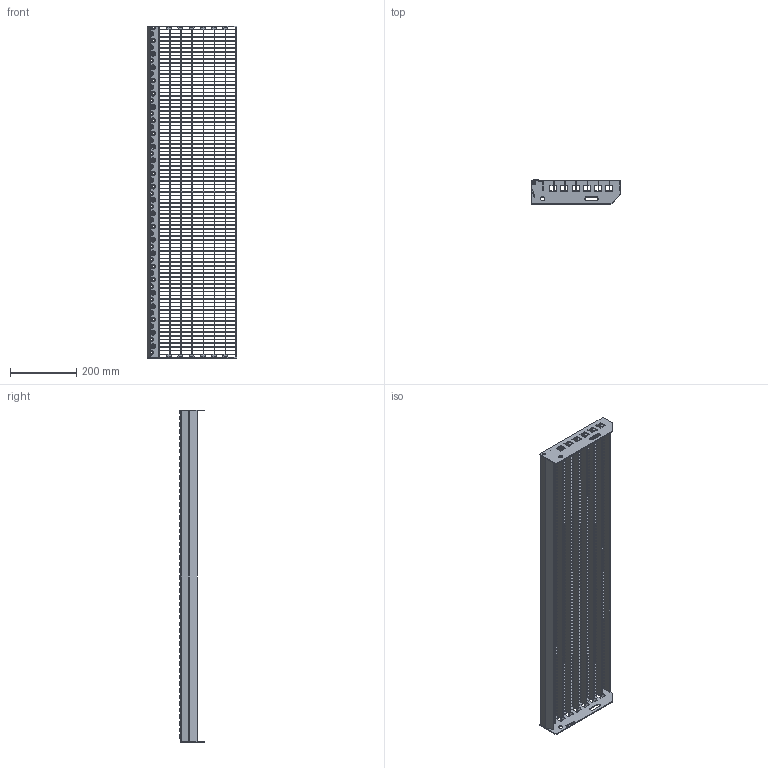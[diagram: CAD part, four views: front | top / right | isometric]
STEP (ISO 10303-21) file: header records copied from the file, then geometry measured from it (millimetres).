
FILE_DESCRIPTION(/* description */ ('','CAx-IF Rec.Pracs.---Representation and Presentation of Product Manufacturing Information (PMI)---3.8---2014-02-18'),/* implementation_level */ '2;1');
FILE_NAME(/* name */ 'C:\Users\phaverkotte\Desktop\Lager STEP\P-Stufen\P 230-33 11-2\P 230-33 11-2 1000mm x 270mm.stp',/* time_stamp */ '2018-03-24T11:03:34+01:00',/* author */ ('phaverkotte'),/* organization */ (''),/* preprocessor_version */ 'ST-DEVELOPER v16.13',/* originating_system */ 'Autodesk Inventor 2018',/* authorisation */ '');
FILE_SCHEMA (('AP242_MANAGED_MODEL_BASED_3D_ENGINEERING_MIM_LF { 1 0 10303 442 1 1 4 }'));
Length unit declared in the file: millimetre
Products named in the file (8): Schodišťový stupeň přím
ý lisovaný; Seitenplatte ausgeklinkt links; Seitenplatte 240 ausgeklinkt extern rechts; Schod nášlap; P Rošt schodu; Querstab; P Nosný pás; Hinteres Flach
Assembly tree (101 placements, depth 3):
  Schodišťový stupeň přím
ý lisovaný
    Seitenplatte ausgeklinkt links
    Seitenplatte 240 ausgeklinkt extern rechts
    Schod nášlap
    P Rošt schodu
      Querstab  x89
      P Nosný pás  x7
      Hinteres Flach
Bounding box: 270.31 x 72.75 x 1000 mm (x, y, z)
Volume: 1069084.8 mm3; surface area: 1202945 mm2
Topology: 100 solids, 100 shells, 3740 faces, 10449 edges, 6926 vertices
Faces by surface type: plane 3384, cone 150, cylinder 132, torus 50, bspline 24
Full cylindrical faces by diameter (mm): 8 x2, 13 x2
Entity records: 36745 total; most frequent: CARTESIAN_POINT 9810, DIRECTION 5326, ORIENTED_EDGE 5228, EDGE_CURVE 2614, LINE 2044, VECTOR 2044, VERTEX_POINT 1803, AXIS2_PLACEMENT_3D 1641
